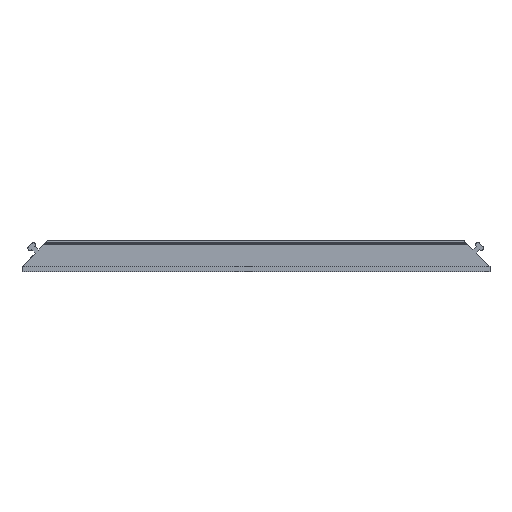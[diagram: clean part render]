
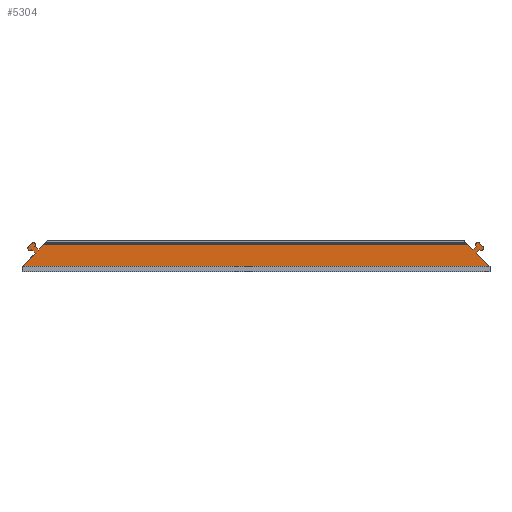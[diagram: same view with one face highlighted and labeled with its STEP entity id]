
A CAD part, left-side view. The second image highlights one B-rep face of the part: STEP entity #5304.
In plain terms, the highlighted planar face has unit normal (-1, 0, 0).
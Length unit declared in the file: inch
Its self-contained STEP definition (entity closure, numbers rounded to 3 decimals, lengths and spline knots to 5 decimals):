
#400=CIRCLE('',#5740,0.17187);
#401=CIRCLE('',#5741,0.17188);
#402=CIRCLE('',#5742,0.17188);
#403=CIRCLE('',#5743,0.17188);
#631=FACE_OUTER_BOUND('',#916,.T.);
#916=EDGE_LOOP('',(#4274,#4275,#4276,#4277,#4278,#4279,#4280,#4281,#4282,
#4283,#4284,#4285,#4286,#4287,#4288,#4289,#4290));
#1324=LINE('',#9240,#1839);
#1330=LINE('',#9255,#1845);
#1331=LINE('',#9257,#1846);
#1332=LINE('',#9261,#1847);
#1333=LINE('',#9265,#1848);
#1334=LINE('',#9267,#1849);
#1335=LINE('',#9268,#1850);
#1336=LINE('',#9270,#1851);
#1337=LINE('',#9272,#1852);
#1338=LINE('',#9276,#1853);
#1339=LINE('',#9280,#1854);
#1340=LINE('',#9282,#1855);
#1341=LINE('',#9283,#1856);
#1839=VECTOR('',#6861,36.);
#1845=VECTOR('',#6871,0.60422);
#1846=VECTOR('',#6872,0.37571);
#1847=VECTOR('',#6875,0.375);
#1848=VECTOR('',#6878,0.37571);
#1849=VECTOR('',#6879,1.4417);
#1850=VECTOR('',#6880,0.04);
#1851=VECTOR('',#6881,1.51519);
#1852=VECTOR('',#6882,0.37571);
#1853=VECTOR('',#6885,0.375);
#1854=VECTOR('',#6888,0.37571);
#1855=VECTOR('',#6889,0.5873);
#1856=VECTOR('',#6890,32.5805);
#2395=VERTEX_POINT('',#9237);
#2396=VERTEX_POINT('',#9239);
#2402=VERTEX_POINT('',#9253);
#2403=VERTEX_POINT('',#9254);
#2404=VERTEX_POINT('',#9256);
#2405=VERTEX_POINT('',#9258);
#2406=VERTEX_POINT('',#9260);
#2407=VERTEX_POINT('',#9262);
#2408=VERTEX_POINT('',#9264);
#2409=VERTEX_POINT('',#9266);
#2410=VERTEX_POINT('',#9269);
#2411=VERTEX_POINT('',#9271);
#2412=VERTEX_POINT('',#9273);
#2413=VERTEX_POINT('',#9275);
#2414=VERTEX_POINT('',#9277);
#2415=VERTEX_POINT('',#9279);
#2416=VERTEX_POINT('',#9281);
#3080=EDGE_CURVE('',#2395,#2396,#1324,.T.);
#3087=EDGE_CURVE('',#2402,#2403,#1330,.T.);
#3088=EDGE_CURVE('',#2403,#2404,#1331,.T.);
#3089=EDGE_CURVE('',#2404,#2405,#400,.T.);
#3090=EDGE_CURVE('',#2405,#2406,#1332,.T.);
#3091=EDGE_CURVE('',#2406,#2407,#401,.T.);
#3092=EDGE_CURVE('',#2407,#2408,#1333,.T.);
#3093=EDGE_CURVE('',#2408,#2409,#1334,.T.);
#3094=EDGE_CURVE('',#2396,#2409,#1335,.T.);
#3095=EDGE_CURVE('',#2395,#2410,#1336,.T.);
#3096=EDGE_CURVE('',#2410,#2411,#1337,.T.);
#3097=EDGE_CURVE('',#2411,#2412,#402,.T.);
#3098=EDGE_CURVE('',#2412,#2413,#1338,.T.);
#3099=EDGE_CURVE('',#2413,#2414,#403,.T.);
#3100=EDGE_CURVE('',#2414,#2415,#1339,.T.);
#3101=EDGE_CURVE('',#2415,#2416,#1340,.T.);
#3102=EDGE_CURVE('',#2416,#2402,#1341,.T.);
#4274=ORIENTED_EDGE('',*,*,#3087,.T.);
#4275=ORIENTED_EDGE('',*,*,#3088,.T.);
#4276=ORIENTED_EDGE('',*,*,#3089,.T.);
#4277=ORIENTED_EDGE('',*,*,#3090,.T.);
#4278=ORIENTED_EDGE('',*,*,#3091,.T.);
#4279=ORIENTED_EDGE('',*,*,#3092,.T.);
#4280=ORIENTED_EDGE('',*,*,#3093,.T.);
#4281=ORIENTED_EDGE('',*,*,#3094,.F.);
#4282=ORIENTED_EDGE('',*,*,#3080,.F.);
#4283=ORIENTED_EDGE('',*,*,#3095,.T.);
#4284=ORIENTED_EDGE('',*,*,#3096,.T.);
#4285=ORIENTED_EDGE('',*,*,#3097,.T.);
#4286=ORIENTED_EDGE('',*,*,#3098,.T.);
#4287=ORIENTED_EDGE('',*,*,#3099,.T.);
#4288=ORIENTED_EDGE('',*,*,#3100,.T.);
#4289=ORIENTED_EDGE('',*,*,#3101,.T.);
#4290=ORIENTED_EDGE('',*,*,#3102,.T.);
#5075=PLANE('',#5739);
#5304=ADVANCED_FACE('',(#631),#5075,.T.);
#5739=AXIS2_PLACEMENT_3D('',#9252,#6869,#6870);
#5740=AXIS2_PLACEMENT_3D('',#9259,#6873,#6874);
#5741=AXIS2_PLACEMENT_3D('',#9263,#6876,#6877);
#5742=AXIS2_PLACEMENT_3D('',#9274,#6883,#6884);
#5743=AXIS2_PLACEMENT_3D('',#9278,#6886,#6887);
#6861=DIRECTION('',(0.,1.,0.));
#6869=DIRECTION('center_axis',(-1.,0.,0.));
#6870=DIRECTION('ref_axis',(0.,0.,1.));
#6871=DIRECTION('',(0.,0.707,-0.707));
#6872=DIRECTION('',(0.,0.707,0.707));
#6873=DIRECTION('center_axis',(-1.,0.,0.));
#6874=DIRECTION('ref_axis',(0.,-0.64,-0.768));
#6875=DIRECTION('',(0.,0.707,-0.707));
#6876=DIRECTION('center_axis',(-1.,0.,0.));
#6877=DIRECTION('ref_axis',(0.,0.707,0.707));
#6878=DIRECTION('',(0.,-0.707,-0.707));
#6879=DIRECTION('',(0.,0.707,-0.707));
#6880=DIRECTION('',(0.,0.,1.));
#6881=DIRECTION('',(0.,0.707,0.707));
#6882=DIRECTION('',(0.,-0.707,0.707));
#6883=DIRECTION('center_axis',(-1.,0.,0.));
#6884=DIRECTION('ref_axis',(0.,0.768,-0.64));
#6885=DIRECTION('',(0.,0.707,0.707));
#6886=DIRECTION('center_axis',(-1.,0.,0.));
#6887=DIRECTION('ref_axis',(0.,-0.707,0.707));
#6888=DIRECTION('',(0.,0.707,-0.707));
#6889=DIRECTION('',(0.,0.707,0.707));
#6890=DIRECTION('',(0.,1.,0.));
#9237=CARTESIAN_POINT('',(-0.67137,0.,0.35966));
#9239=CARTESIAN_POINT('',(-0.67137,36.,0.35966));
#9240=CARTESIAN_POINT('',(-0.67137,0.,0.35966));
#9252=CARTESIAN_POINT('Origin',(-0.67137,0.,0.35966));
#9253=CARTESIAN_POINT('',(-0.67137,34.31025,2.08941));
#9254=CARTESIAN_POINT('',(-0.67137,34.7375,1.66216));
#9255=CARTESIAN_POINT('',(-0.67137,25.7767,10.62296));
#9256=CARTESIAN_POINT('',(-0.67137,35.00316,1.92783));
#9257=CARTESIAN_POINT('',(-0.67137,34.7375,1.66216));
#9258=CARTESIAN_POINT('',(-0.67137,35.23468,2.18144));
#9259=CARTESIAN_POINT('Origin',(-0.67137,35.11315,2.05991));
#9260=CARTESIAN_POINT('',(-0.67137,35.49985,1.91628));
#9261=CARTESIAN_POINT('',(-0.67137,35.23468,2.18144));
#9262=CARTESIAN_POINT('',(-0.67137,35.24623,1.68476));
#9263=CARTESIAN_POINT('Origin',(-0.67137,35.37831,1.79474));
#9264=CARTESIAN_POINT('',(-0.67137,34.98056,1.41909));
#9265=CARTESIAN_POINT('',(-0.67137,35.24623,1.68476));
#9266=CARTESIAN_POINT('',(-0.67137,36.,0.39966));
#9267=CARTESIAN_POINT('',(-0.67137,25.7767,10.62296));
#9268=CARTESIAN_POINT('',(-0.67137,36.,0.35966));
#9269=CARTESIAN_POINT('',(-0.67137,1.0714,1.43106));
#9270=CARTESIAN_POINT('',(-0.67137,0.,0.35966));
#9271=CARTESIAN_POINT('',(-0.67137,0.80573,1.69673));
#9272=CARTESIAN_POINT('',(-0.67137,1.0714,1.43106));
#9273=CARTESIAN_POINT('',(-0.67137,0.55212,1.92824));
#9274=CARTESIAN_POINT('Origin',(-0.67137,0.67365,1.80671));
#9275=CARTESIAN_POINT('',(-0.67137,0.81728,2.19341));
#9276=CARTESIAN_POINT('',(-0.67137,0.55212,1.92824));
#9277=CARTESIAN_POINT('',(-0.67137,1.0488,1.93979));
#9278=CARTESIAN_POINT('Origin',(-0.67137,0.93882,2.07187));
#9279=CARTESIAN_POINT('',(-0.67137,1.31447,1.67413));
#9280=CARTESIAN_POINT('',(-0.67137,1.0488,1.93979));
#9281=CARTESIAN_POINT('',(-0.67137,1.72975,2.08941));
#9282=CARTESIAN_POINT('',(-0.67137,0.,0.35966));
#9283=CARTESIAN_POINT('',(-0.67137,0.,2.08941));
